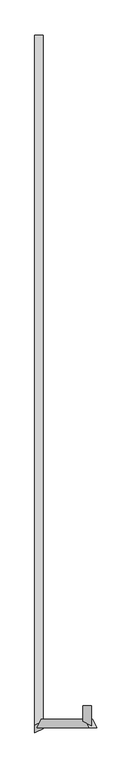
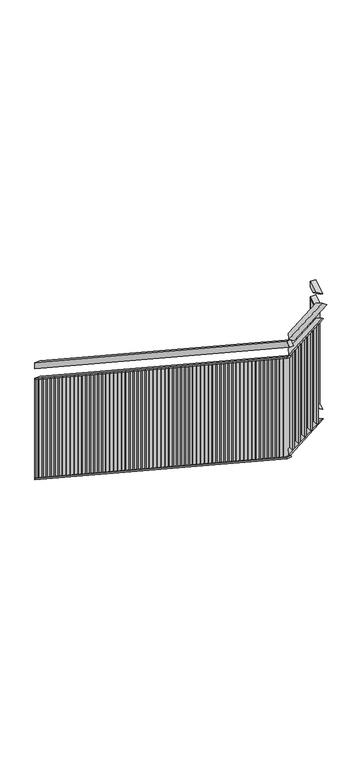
"""IFC4 building model written with IfcOpenShell, lengths in millimetres: railing geometry, Vertikale Stäbe mit Handlauf."""

from ifc_helpers import new_model, si_unit, frame, origin, place, context, project, spatial, polyline, outline, extrude, faceted_brep, source, transform, mapped, element, save


def railing_ba4ef4f0(model_context):
    return source(origin(), model_context, "Body", "SolidModel", [
        faceted_brep([(2004.6, 4490.0, 2171.875), (2004.6, 4490.0, 2124.0007056), (1964.6, 4490.0, 2124.0007056), (1964.6, 4490.0, 2171.875), (2004.6, 1290.5681425, 4275.8938279), (1964.6, 1271.1318575, 4288.675569), (1964.6, 1236.1714395, 4263.792037), (2004.6, 1255.6077246, 4251.0102959)], [[[0, 1, 2, 3]], [[4, 5, 6, 7]], [[1, 0, 4, 7]], [[2, 1, 7, 6]], [[3, 2, 6, 5]], [[0, 3, 5, 4]]]),
        faceted_brep([(1994.3181425, 1300.85, 4323.7645035), (2029.2785605, 1300.85, 4300.5020427), (2009.8422754, 1260.85, 4284.9643148), (1974.8818575, 1260.85, 4308.2267756), (2200.187197, 1300.85, 4488.3400558), (2220.612803, 1260.85, 4504.6686652), (2255.0045843, 1260.85, 4480.9516257), (2234.5789784, 1300.85, 4464.6230163)], [[[0, 1, 2, 3]], [[4, 5, 6, 7]], [[1, 0, 4, 7]], [[2, 1, 7, 6]], [[3, 2, 6, 5]], [[0, 3, 5, 4]]]),
        faceted_brep([(2190.4, 1291.062803, 4580.9651734), (2190.4, 1325.4545843, 4554.8150518), (2230.4, 1305.0289784, 4542.7613144), (2230.4, 1270.637197, 4568.911436), (2190.4, 1361.9329238, 4622.7876696), (2230.4, 1361.9329238, 4622.7876696), (2230.4, 1361.9329238, 4576.3419689), (2190.4, 1361.9329238, 4576.3419689)], [[[0, 1, 2, 3]], [[4, 5, 6, 7]], [[1, 0, 4, 7]], [[2, 1, 7, 6]], [[3, 2, 6, 5]], [[0, 3, 5, 4]]]),
        faceted_brep([(2004.6, 4490.0, 2051.875), (2004.6, 4490.0, 2039.9064264), (1964.6, 4490.0, 2039.9064264), (1964.6, 4490.0, 2051.875), (2004.6, 1290.5681425, 4155.8938279), (1964.6, 1271.1318575, 4168.675569), (1964.6, 1262.391753, 4162.454686), (2004.6, 1281.828038, 4149.6729449)], [[[0, 1, 2, 3]], [[4, 5, 6, 7]], [[1, 0, 4, 7]], [[2, 1, 7, 6]], [[3, 2, 6, 5]], [[0, 3, 5, 4]]]),
        faceted_brep([(1994.3181425, 1300.85, 4203.7645035), (2003.058247, 1300.85, 4197.9488883), (1983.621962, 1260.85, 4182.4111604), (1974.8818575, 1260.85, 4188.2267756), (2200.187197, 1300.85, 4368.3400558), (2220.612803, 1260.85, 4384.6686652), (2229.2107483, 1260.85, 4378.7394053), (2208.7851424, 1300.85, 4362.4107959)], [[[0, 1, 2, 3]], [[4, 5, 6, 7]], [[1, 0, 4, 7]], [[2, 1, 7, 6]], [[3, 2, 6, 5]], [[0, 3, 5, 4]]]),
        faceted_brep([(2190.4, 1291.062803, 4460.9651734), (2190.4, 1299.6607483, 4454.427643), (2230.4, 1279.2351424, 4442.3739056), (2230.4, 1270.637197, 4448.911436), (2190.4, 1361.9329238, 4502.7876696), (2230.4, 1361.9329238, 4502.7876696), (2230.4, 1361.9329238, 4491.1762444), (2190.4, 1361.9329238, 4491.1762444)], [[[0, 1, 2, 3]], [[4, 5, 6, 7]], [[1, 0, 4, 7]], [[2, 1, 7, 6]], [[3, 2, 6, 5]], [[0, 3, 5, 4]]]),
        faceted_brep([(2004.6, 4490.0, 1271.875), (2004.6, 4490.0, 1259.9064264), (1964.6, 4490.0, 1259.9064264), (1964.6, 4490.0, 1271.875), (2004.6, 1290.5681425, 3375.8938279), (1964.6, 1271.1318575, 3388.675569), (1964.6, 1262.391753, 3382.454686), (2004.6, 1281.828038, 3369.6729449)], [[[0, 1, 2, 3]], [[4, 5, 6, 7]], [[1, 0, 4, 7]], [[2, 1, 7, 6]], [[3, 2, 6, 5]], [[0, 3, 5, 4]]]),
        faceted_brep([(1994.3181425, 1300.85, 3423.7645035), (2003.058247, 1300.85, 3417.9488883), (1983.621962, 1260.85, 3402.4111604), (1974.8818575, 1260.85, 3408.2267756), (2200.187197, 1300.85, 3588.3400558), (2220.612803, 1260.85, 3604.6686652), (2229.2107483, 1260.85, 3598.7394053), (2208.7851424, 1300.85, 3582.4107959)], [[[0, 1, 2, 3]], [[4, 5, 6, 7]], [[1, 0, 4, 7]], [[2, 1, 7, 6]], [[3, 2, 6, 5]], [[0, 3, 5, 4]]]),
        faceted_brep([(2190.4, 1291.062803, 3680.9651734), (2190.4, 1299.6607483, 3674.427643), (2230.4, 1279.2351424, 3662.3739056), (2230.4, 1270.637197, 3668.911436), (2190.4, 1361.9329238, 3722.7876696), (2230.4, 1361.9329238, 3722.7876696), (2230.4, 1361.9329238, 3711.1762444), (2190.4, 1361.9329238, 3711.1762444)], [[[0, 1, 2, 3]], [[4, 5, 6, 7]], [[1, 0, 4, 7]], [[2, 1, 7, 6]], [[3, 2, 6, 5]], [[0, 3, 5, 4]]]),
        extrude(outline(polyline([(1306.3914619, 4460.0110558), (1316.3914619, 4465.9123434), (1316.3914619, 3695.9123434), (1306.3914619, 3690.0110558), (1306.3914619, 4460.0110558)])), frame((2190.4, 0.0, 0.0), z_axis=(1.0, 0.0, 0.0), x_axis=(0.0, 1.0, 0.0)), (0.0, 0.0, 1.0), 40.0),
        extrude(outline(polyline([(3573.0813953, 2181.1), (3581.0755814, 2191.1), (4351.0755814, 2191.1), (4343.0813953, 2181.1), (3573.0813953, 2181.1)])), frame((0.0, 1260.85, 0.0), z_axis=(0.0, 1.0, 0.0), x_axis=(0.0, 0.0, 1.0)), (0.0, 0.0, 1.0), 40.0),
        extrude(outline(polyline([(3537.6671512, 2136.8), (3545.6613372, 2146.8), (4315.6613372, 2146.8), (4307.6671512, 2136.8), (3537.6671512, 2136.8)])), frame((0.0, 1260.85, 0.0), z_axis=(0.0, 1.0, 0.0), x_axis=(0.0, 0.0, 1.0)), (0.0, 0.0, 1.0), 40.0),
        extrude(outline(polyline([(3502.252907, 2092.5), (3510.247093, 2102.5), (4280.247093, 2102.5), (4272.252907, 2092.5), (3502.252907, 2092.5)])), frame((0.0, 1260.85, 0.0), z_axis=(0.0, 1.0, 0.0), x_axis=(0.0, 0.0, 1.0)), (0.0, 0.0, 1.0), 40.0),
        extrude(outline(polyline([(3466.8386628, 2048.2), (3474.8328488, 2058.2), (4244.8328488, 2058.2), (4236.8386628, 2048.2), (3466.8386628, 2048.2)])), frame((0.0, 1260.85, 0.0), z_axis=(0.0, 1.0, 0.0), x_axis=(0.0, 0.0, 1.0)), (0.0, 0.0, 1.0), 40.0),
        extrude(outline(polyline([(3431.4244186, 2003.9), (3439.4186047, 2013.9), (4209.4186047, 2013.9), (4201.4244186, 2003.9), (3431.4244186, 2003.9)])), frame((0.0, 1260.85, 0.0), z_axis=(0.0, 1.0, 0.0), x_axis=(0.0, 0.0, 1.0)), (0.0, 0.0, 1.0), 40.0),
        extrude(outline(polyline([(1316.3054687, 3358.9683794), (1306.3054687, 3365.5446059), (1306.3054687, 4135.5446059), (1316.3054687, 4128.9683794), (1316.3054687, 3358.9683794)])), frame((1964.6, 0.0, 0.0), z_axis=(1.0, 0.0, 0.0), x_axis=(0.0, 1.0, 0.0)), (0.0, 0.0, 1.0), 40.0),
        extrude(outline(polyline([(1366.7609375, 3325.7877208), (1356.7609375, 3332.3639472), (1356.7609375, 4102.3639472), (1366.7609375, 4095.7877208), (1366.7609375, 3325.7877208)])), frame((1964.6, 0.0, 0.0), z_axis=(1.0, 0.0, 0.0), x_axis=(0.0, 1.0, 0.0)), (0.0, 0.0, 1.0), 40.0),
        extrude(outline(polyline([(1417.2164062, 3292.6070622), (1407.2164062, 3299.1832886), (1407.2164062, 4069.1832886), (1417.2164062, 4062.6070622), (1417.2164062, 3292.6070622)])), frame((1964.6, 0.0, 0.0), z_axis=(1.0, 0.0, 0.0), x_axis=(0.0, 1.0, 0.0)), (0.0, 0.0, 1.0), 40.0),
        extrude(outline(polyline([(1467.671875, 3259.4264036), (1457.671875, 3266.00263), (1457.671875, 4036.00263), (1467.671875, 4029.4264036), (1467.671875, 3259.4264036)])), frame((1964.6, 0.0, 0.0), z_axis=(1.0, 0.0, 0.0), x_axis=(0.0, 1.0, 0.0)), (0.0, 0.0, 1.0), 40.0),
        extrude(outline(polyline([(1518.1273437, 3226.245745), (1508.1273437, 3232.8219714), (1508.1273437, 4002.8219714), (1518.1273437, 3996.245745), (1518.1273437, 3226.245745)])), frame((1964.6, 0.0, 0.0), z_axis=(1.0, 0.0, 0.0), x_axis=(0.0, 1.0, 0.0)), (0.0, 0.0, 1.0), 40.0),
        extrude(outline(polyline([(1568.5828125, 3193.0650864), (1558.5828125, 3199.6413128), (1558.5828125, 3969.6413128), (1568.5828125, 3963.0650864), (1568.5828125, 3193.0650864)])), frame((1964.6, 0.0, 0.0), z_axis=(1.0, 0.0, 0.0), x_axis=(0.0, 1.0, 0.0)), (0.0, 0.0, 1.0), 40.0),
        extrude(outline(polyline([(1619.0382812, 3159.8844278), (1609.0382812, 3166.4606542), (1609.0382812, 3936.4606542), (1619.0382812, 3929.8844278), (1619.0382812, 3159.8844278)])), frame((1964.6, 0.0, 0.0), z_axis=(1.0, 0.0, 0.0), x_axis=(0.0, 1.0, 0.0)), (0.0, 0.0, 1.0), 40.0),
        extrude(outline(polyline([(1669.49375, 3126.7037691), (1659.49375, 3133.2799956), (1659.49375, 3903.2799956), (1669.49375, 3896.7037691), (1669.49375, 3126.7037691)])), frame((1964.6, 0.0, 0.0), z_axis=(1.0, 0.0, 0.0), x_axis=(0.0, 1.0, 0.0)), (0.0, 0.0, 1.0), 40.0),
        extrude(outline(polyline([(1719.9492187, 3093.5231105), (1709.9492187, 3100.0993369), (1709.9492187, 3870.0993369), (1719.9492187, 3863.5231105), (1719.9492187, 3093.5231105)])), frame((1964.6, 0.0, 0.0), z_axis=(1.0, 0.0, 0.0), x_axis=(0.0, 1.0, 0.0)), (0.0, 0.0, 1.0), 40.0),
        extrude(outline(polyline([(1770.4046875, 3060.3424519), (1760.4046875, 3066.9186783), (1760.4046875, 3836.9186783), (1770.4046875, 3830.3424519), (1770.4046875, 3060.3424519)])), frame((1964.6, 0.0, 0.0), z_axis=(1.0, 0.0, 0.0), x_axis=(0.0, 1.0, 0.0)), (0.0, 0.0, 1.0), 40.0),
        extrude(outline(polyline([(1820.8601562, 3027.1617933), (1810.8601562, 3033.7380197), (1810.8601562, 3803.7380197), (1820.8601562, 3797.1617933), (1820.8601562, 3027.1617933)])), frame((1964.6, 0.0, 0.0), z_axis=(1.0, 0.0, 0.0), x_axis=(0.0, 1.0, 0.0)), (0.0, 0.0, 1.0), 40.0),
        extrude(outline(polyline([(1871.315625, 2993.9811347), (1861.315625, 3000.5573611), (1861.315625, 3770.5573611), (1871.315625, 3763.9811347), (1871.315625, 2993.9811347)])), frame((1964.6, 0.0, 0.0), z_axis=(1.0, 0.0, 0.0), x_axis=(0.0, 1.0, 0.0)), (0.0, 0.0, 1.0), 40.0),
        extrude(outline(polyline([(1921.7710937, 2960.8004761), (1911.7710937, 2967.3767025), (1911.7710937, 3737.3767025), (1921.7710937, 3730.8004761), (1921.7710937, 2960.8004761)])), frame((1964.6, 0.0, 0.0), z_axis=(1.0, 0.0, 0.0), x_axis=(0.0, 1.0, 0.0)), (0.0, 0.0, 1.0), 40.0),
        extrude(outline(polyline([(1972.2265625, 2927.6198175), (1962.2265625, 2934.1960439), (1962.2265625, 3704.1960439), (1972.2265625, 3697.6198175), (1972.2265625, 2927.6198175)])), frame((1964.6, 0.0, 0.0), z_axis=(1.0, 0.0, 0.0), x_axis=(0.0, 1.0, 0.0)), (0.0, 0.0, 1.0), 40.0),
        extrude(outline(polyline([(2022.6820312, 2894.4391589), (2012.6820312, 2901.0153853), (2012.6820312, 3671.0153853), (2022.6820312, 3664.4391589), (2022.6820312, 2894.4391589)])), frame((1964.6, 0.0, 0.0), z_axis=(1.0, 0.0, 0.0), x_axis=(0.0, 1.0, 0.0)), (0.0, 0.0, 1.0), 40.0),
        extrude(outline(polyline([(2073.1375, 2861.2585002), (2063.1375, 2867.8347267), (2063.1375, 3637.8347267), (2073.1375, 3631.2585002), (2073.1375, 2861.2585002)])), frame((1964.6, 0.0, 0.0), z_axis=(1.0, 0.0, 0.0), x_axis=(0.0, 1.0, 0.0)), (0.0, 0.0, 1.0), 40.0),
        extrude(outline(polyline([(2123.5929687, 2828.0778416), (2113.5929687, 2834.654068), (2113.5929687, 3604.654068), (2123.5929687, 3598.0778416), (2123.5929687, 2828.0778416)])), frame((1964.6, 0.0, 0.0), z_axis=(1.0, 0.0, 0.0), x_axis=(0.0, 1.0, 0.0)), (0.0, 0.0, 1.0), 40.0),
        extrude(outline(polyline([(2174.0484375, 2794.897183), (2164.0484375, 2801.4734094), (2164.0484375, 3571.4734094), (2174.0484375, 3564.897183), (2174.0484375, 2794.897183)])), frame((1964.6, 0.0, 0.0), z_axis=(1.0, 0.0, 0.0), x_axis=(0.0, 1.0, 0.0)), (0.0, 0.0, 1.0), 40.0),
        extrude(outline(polyline([(2224.5039062, 2761.7165244), (2214.5039062, 2768.2927508), (2214.5039062, 3538.2927508), (2224.5039062, 3531.7165244), (2224.5039062, 2761.7165244)])), frame((1964.6, 0.0, 0.0), z_axis=(1.0, 0.0, 0.0), x_axis=(0.0, 1.0, 0.0)), (0.0, 0.0, 1.0), 40.0),
        extrude(outline(polyline([(2274.959375, 2728.5358658), (2264.959375, 2735.1120922), (2264.959375, 3505.1120922), (2274.959375, 3498.5358658), (2274.959375, 2728.5358658)])), frame((1964.6, 0.0, 0.0), z_axis=(1.0, 0.0, 0.0), x_axis=(0.0, 1.0, 0.0)), (0.0, 0.0, 1.0), 40.0),
        extrude(outline(polyline([(2325.4148437, 2695.3552072), (2315.4148437, 2701.9314336), (2315.4148437, 3471.9314336), (2325.4148437, 3465.3552072), (2325.4148437, 2695.3552072)])), frame((1964.6, 0.0, 0.0), z_axis=(1.0, 0.0, 0.0), x_axis=(0.0, 1.0, 0.0)), (0.0, 0.0, 1.0), 40.0),
        extrude(outline(polyline([(2375.8703125, 2662.1745486), (2365.8703125, 2668.750775), (2365.8703125, 3438.750775), (2375.8703125, 3432.1745486), (2375.8703125, 2662.1745486)])), frame((1964.6, 0.0, 0.0), z_axis=(1.0, 0.0, 0.0), x_axis=(0.0, 1.0, 0.0)), (0.0, 0.0, 1.0), 40.0),
        extrude(outline(polyline([(2426.3257812, 2628.9938899), (2416.3257812, 2635.5701164), (2416.3257812, 3405.5701164), (2426.3257812, 3398.9938899), (2426.3257812, 2628.9938899)])), frame((1964.6, 0.0, 0.0), z_axis=(1.0, 0.0, 0.0), x_axis=(0.0, 1.0, 0.0)), (0.0, 0.0, 1.0), 40.0),
        extrude(outline(polyline([(2476.78125, 2595.8132313), (2466.78125, 2602.3894577), (2466.78125, 3372.3894577), (2476.78125, 3365.8132313), (2476.78125, 2595.8132313)])), frame((1964.6, 0.0, 0.0), z_axis=(1.0, 0.0, 0.0), x_axis=(0.0, 1.0, 0.0)), (0.0, 0.0, 1.0), 40.0),
        extrude(outline(polyline([(2527.2367187, 2562.6325727), (2517.2367187, 2569.2087991), (2517.2367187, 3339.2087991), (2527.2367187, 3332.6325727), (2527.2367187, 2562.6325727)])), frame((1964.6, 0.0, 0.0), z_axis=(1.0, 0.0, 0.0), x_axis=(0.0, 1.0, 0.0)), (0.0, 0.0, 1.0), 40.0),
        extrude(outline(polyline([(2577.6921875, 2529.4519141), (2567.6921875, 2536.0281405), (2567.6921875, 3306.0281405), (2577.6921875, 3299.4519141), (2577.6921875, 2529.4519141)])), frame((1964.6, 0.0, 0.0), z_axis=(1.0, 0.0, 0.0), x_axis=(0.0, 1.0, 0.0)), (0.0, 0.0, 1.0), 40.0),
        extrude(outline(polyline([(2628.1476562, 2496.2712555), (2618.1476562, 2502.8474819), (2618.1476562, 3272.8474819), (2628.1476562, 3266.2712555), (2628.1476562, 2496.2712555)])), frame((1964.6, 0.0, 0.0), z_axis=(1.0, 0.0, 0.0), x_axis=(0.0, 1.0, 0.0)), (0.0, 0.0, 1.0), 40.0),
        extrude(outline(polyline([(2678.603125, 2463.0905969), (2668.603125, 2469.6668233), (2668.603125, 3239.6668233), (2678.603125, 3233.0905969), (2678.603125, 2463.0905969)])), frame((1964.6, 0.0, 0.0), z_axis=(1.0, 0.0, 0.0), x_axis=(0.0, 1.0, 0.0)), (0.0, 0.0, 1.0), 40.0),
        extrude(outline(polyline([(2729.0585937, 2429.9099383), (2719.0585937, 2436.4861647), (2719.0585937, 3206.4861647), (2729.0585937, 3199.9099383), (2729.0585937, 2429.9099383)])), frame((1964.6, 0.0, 0.0), z_axis=(1.0, 0.0, 0.0), x_axis=(0.0, 1.0, 0.0)), (0.0, 0.0, 1.0), 40.0),
        extrude(outline(polyline([(2779.5140625, 2396.7292797), (2769.5140625, 2403.3055061), (2769.5140625, 3173.3055061), (2779.5140625, 3166.7292797), (2779.5140625, 2396.7292797)])), frame((1964.6, 0.0, 0.0), z_axis=(1.0, 0.0, 0.0), x_axis=(0.0, 1.0, 0.0)), (0.0, 0.0, 1.0), 40.0),
        extrude(outline(polyline([(2829.9695312, 2363.548621), (2819.9695312, 2370.1248474), (2819.9695312, 3140.1248474), (2829.9695312, 3133.548621), (2829.9695312, 2363.548621)])), frame((1964.6, 0.0, 0.0), z_axis=(1.0, 0.0, 0.0), x_axis=(0.0, 1.0, 0.0)), (0.0, 0.0, 1.0), 40.0),
        extrude(outline(polyline([(2880.425, 2330.3679624), (2870.425, 2336.9441888), (2870.425, 3106.9441888), (2880.425, 3100.3679624), (2880.425, 2330.3679624)])), frame((1964.6, 0.0, 0.0), z_axis=(1.0, 0.0, 0.0), x_axis=(0.0, 1.0, 0.0)), (0.0, 0.0, 1.0), 40.0),
        extrude(outline(polyline([(2930.8804687, 2297.1873038), (2920.8804687, 2303.7635302), (2920.8804687, 3073.7635302), (2930.8804687, 3067.1873038), (2930.8804687, 2297.1873038)])), frame((1964.6, 0.0, 0.0), z_axis=(1.0, 0.0, 0.0), x_axis=(0.0, 1.0, 0.0)), (0.0, 0.0, 1.0), 40.0),
        extrude(outline(polyline([(2981.3359375, 2264.0066452), (2971.3359375, 2270.5828716), (2971.3359375, 3040.5828716), (2981.3359375, 3034.0066452), (2981.3359375, 2264.0066452)])), frame((1964.6, 0.0, 0.0), z_axis=(1.0, 0.0, 0.0), x_axis=(0.0, 1.0, 0.0)), (0.0, 0.0, 1.0), 40.0),
        extrude(outline(polyline([(3031.7914062, 2230.8259866), (3021.7914062, 2237.402213), (3021.7914062, 3007.402213), (3031.7914062, 3000.8259866), (3031.7914062, 2230.8259866)])), frame((1964.6, 0.0, 0.0), z_axis=(1.0, 0.0, 0.0), x_axis=(0.0, 1.0, 0.0)), (0.0, 0.0, 1.0), 40.0),
        extrude(outline(polyline([(3082.246875, 2197.645328), (3072.246875, 2204.2215544), (3072.246875, 2974.2215544), (3082.246875, 2967.645328), (3082.246875, 2197.645328)])), frame((1964.6, 0.0, 0.0), z_axis=(1.0, 0.0, 0.0), x_axis=(0.0, 1.0, 0.0)), (0.0, 0.0, 1.0), 40.0),
        extrude(outline(polyline([(3132.7023437, 2164.4646694), (3122.7023437, 2171.0408958), (3122.7023437, 2941.0408958), (3132.7023437, 2934.4646694), (3132.7023437, 2164.4646694)])), frame((1964.6, 0.0, 0.0), z_axis=(1.0, 0.0, 0.0), x_axis=(0.0, 1.0, 0.0)), (0.0, 0.0, 1.0), 40.0),
        extrude(outline(polyline([(3183.1578125, 2131.2840107), (3173.1578125, 2137.8602372), (3173.1578125, 2907.8602372), (3183.1578125, 2901.2840107), (3183.1578125, 2131.2840107)])), frame((1964.6, 0.0, 0.0), z_axis=(1.0, 0.0, 0.0), x_axis=(0.0, 1.0, 0.0)), (0.0, 0.0, 1.0), 40.0),
        extrude(outline(polyline([(3233.6132812, 2098.1033521), (3223.6132812, 2104.6795785), (3223.6132812, 2874.6795785), (3233.6132812, 2868.1033521), (3233.6132812, 2098.1033521)])), frame((1964.6, 0.0, 0.0), z_axis=(1.0, 0.0, 0.0), x_axis=(0.0, 1.0, 0.0)), (0.0, 0.0, 1.0), 40.0),
        extrude(outline(polyline([(3284.06875, 2064.9226935), (3274.06875, 2071.4989199), (3274.06875, 2841.4989199), (3284.06875, 2834.9226935), (3284.06875, 2064.9226935)])), frame((1964.6, 0.0, 0.0), z_axis=(1.0, 0.0, 0.0), x_axis=(0.0, 1.0, 0.0)), (0.0, 0.0, 1.0), 40.0),
        extrude(outline(polyline([(3334.5242187, 2031.7420349), (3324.5242187, 2038.3182613), (3324.5242187, 2808.3182613), (3334.5242187, 2801.7420349), (3334.5242187, 2031.7420349)])), frame((1964.6, 0.0, 0.0), z_axis=(1.0, 0.0, 0.0), x_axis=(0.0, 1.0, 0.0)), (0.0, 0.0, 1.0), 40.0),
        extrude(outline(polyline([(3384.9796875, 1998.5613763), (3374.9796875, 2005.1376027), (3374.9796875, 2775.1376027), (3384.9796875, 2768.5613763), (3384.9796875, 1998.5613763)])), frame((1964.6, 0.0, 0.0), z_axis=(1.0, 0.0, 0.0), x_axis=(0.0, 1.0, 0.0)), (0.0, 0.0, 1.0), 40.0),
        extrude(outline(polyline([(3435.4351562, 1965.3807177), (3425.4351562, 1971.9569441), (3425.4351562, 2741.9569441), (3435.4351562, 2735.3807177), (3435.4351562, 1965.3807177)])), frame((1964.6, 0.0, 0.0), z_axis=(1.0, 0.0, 0.0), x_axis=(0.0, 1.0, 0.0)), (0.0, 0.0, 1.0), 40.0),
        extrude(outline(polyline([(3485.890625, 1932.2000591), (3475.890625, 1938.7762855), (3475.890625, 2708.7762855), (3485.890625, 2702.2000591), (3485.890625, 1932.2000591)])), frame((1964.6, 0.0, 0.0), z_axis=(1.0, 0.0, 0.0), x_axis=(0.0, 1.0, 0.0)), (0.0, 0.0, 1.0), 40.0),
        extrude(outline(polyline([(3536.3460937, 1899.0194005), (3526.3460937, 1905.5956269), (3526.3460937, 2675.5956269), (3536.3460937, 2669.0194005), (3536.3460937, 1899.0194005)])), frame((1964.6, 0.0, 0.0), z_axis=(1.0, 0.0, 0.0), x_axis=(0.0, 1.0, 0.0)), (0.0, 0.0, 1.0), 40.0),
        extrude(outline(polyline([(3586.8015625, 1865.8387418), (3576.8015625, 1872.4149682), (3576.8015625, 2642.4149682), (3586.8015625, 2635.8387418), (3586.8015625, 1865.8387418)])), frame((1964.6, 0.0, 0.0), z_axis=(1.0, 0.0, 0.0), x_axis=(0.0, 1.0, 0.0)), (0.0, 0.0, 1.0), 40.0),
        extrude(outline(polyline([(3637.2570312, 1832.6580832), (3627.2570312, 1839.2343096), (3627.2570312, 2609.2343096), (3637.2570312, 2602.6580832), (3637.2570312, 1832.6580832)])), frame((1964.6, 0.0, 0.0), z_axis=(1.0, 0.0, 0.0), x_axis=(0.0, 1.0, 0.0)), (0.0, 0.0, 1.0), 40.0),
        extrude(outline(polyline([(3687.7125, 1799.4774246), (3677.7125, 1806.053651), (3677.7125, 2576.053651), (3687.7125, 2569.4774246), (3687.7125, 1799.4774246)])), frame((1964.6, 0.0, 0.0), z_axis=(1.0, 0.0, 0.0), x_axis=(0.0, 1.0, 0.0)), (0.0, 0.0, 1.0), 40.0),
        extrude(outline(polyline([(3738.1679687, 1766.296766), (3728.1679687, 1772.8729924), (3728.1679687, 2542.8729924), (3738.1679687, 2536.296766), (3738.1679687, 1766.296766)])), frame((1964.6, 0.0, 0.0), z_axis=(1.0, 0.0, 0.0), x_axis=(0.0, 1.0, 0.0)), (0.0, 0.0, 1.0), 40.0),
        extrude(outline(polyline([(3788.6234375, 1733.1161074), (3778.6234375, 1739.6923338), (3778.6234375, 2509.6923338), (3788.6234375, 2503.1161074), (3788.6234375, 1733.1161074)])), frame((1964.6, 0.0, 0.0), z_axis=(1.0, 0.0, 0.0), x_axis=(0.0, 1.0, 0.0)), (0.0, 0.0, 1.0), 40.0),
        extrude(outline(polyline([(3839.0789062, 1699.9354488), (3829.0789062, 1706.5116752), (3829.0789062, 2476.5116752), (3839.0789062, 2469.9354488), (3839.0789062, 1699.9354488)])), frame((1964.6, 0.0, 0.0), z_axis=(1.0, 0.0, 0.0), x_axis=(0.0, 1.0, 0.0)), (0.0, 0.0, 1.0), 40.0),
        extrude(outline(polyline([(3889.534375, 1666.7547902), (3879.534375, 1673.3310166), (3879.534375, 2443.3310166), (3889.534375, 2436.7547902), (3889.534375, 1666.7547902)])), frame((1964.6, 0.0, 0.0), z_axis=(1.0, 0.0, 0.0), x_axis=(0.0, 1.0, 0.0)), (0.0, 0.0, 1.0), 40.0),
        extrude(outline(polyline([(3939.9898437, 1633.5741315), (3929.9898437, 1640.150358), (3929.9898437, 2410.150358), (3939.9898437, 2403.5741315), (3939.9898437, 1633.5741315)])), frame((1964.6, 0.0, 0.0), z_axis=(1.0, 0.0, 0.0), x_axis=(0.0, 1.0, 0.0)), (0.0, 0.0, 1.0), 40.0),
        extrude(outline(polyline([(3990.4453125, 1600.3934729), (3980.4453125, 1606.9696993), (3980.4453125, 2376.9696993), (3990.4453125, 2370.3934729), (3990.4453125, 1600.3934729)])), frame((1964.6, 0.0, 0.0), z_axis=(1.0, 0.0, 0.0), x_axis=(0.0, 1.0, 0.0)), (0.0, 0.0, 1.0), 40.0),
        extrude(outline(polyline([(4040.9007812, 1567.2128143), (4030.9007812, 1573.7890407), (4030.9007812, 2343.7890407), (4040.9007812, 2337.2128143), (4040.9007812, 1567.2128143)])), frame((1964.6, 0.0, 0.0), z_axis=(1.0, 0.0, 0.0), x_axis=(0.0, 1.0, 0.0)), (0.0, 0.0, 1.0), 40.0),
        extrude(outline(polyline([(4091.35625, 1534.0321557), (4081.35625, 1540.6083821), (4081.35625, 2310.6083821), (4091.35625, 2304.0321557), (4091.35625, 1534.0321557)])), frame((1964.6, 0.0, 0.0), z_axis=(1.0, 0.0, 0.0), x_axis=(0.0, 1.0, 0.0)), (0.0, 0.0, 1.0), 40.0),
        extrude(outline(polyline([(4141.8117187, 1500.8514971), (4131.8117187, 1507.4277235), (4131.8117187, 2277.4277235), (4141.8117187, 2270.8514971), (4141.8117187, 1500.8514971)])), frame((1964.6, 0.0, 0.0), z_axis=(1.0, 0.0, 0.0), x_axis=(0.0, 1.0, 0.0)), (0.0, 0.0, 1.0), 40.0),
        extrude(outline(polyline([(4192.2671875, 1467.6708385), (4182.2671875, 1474.2470649), (4182.2671875, 2244.2470649), (4192.2671875, 2237.6708385), (4192.2671875, 1467.6708385)])), frame((1964.6, 0.0, 0.0), z_axis=(1.0, 0.0, 0.0), x_axis=(0.0, 1.0, 0.0)), (0.0, 0.0, 1.0), 40.0),
        extrude(outline(polyline([(4242.7226562, 1434.4901799), (4232.7226562, 1441.0664063), (4232.7226562, 2211.0664063), (4242.7226562, 2204.4901799), (4242.7226562, 1434.4901799)])), frame((1964.6, 0.0, 0.0), z_axis=(1.0, 0.0, 0.0), x_axis=(0.0, 1.0, 0.0)), (0.0, 0.0, 1.0), 40.0),
        extrude(outline(polyline([(4293.178125, 1401.3095212), (4283.178125, 1407.8857477), (4283.178125, 2177.8857477), (4293.178125, 2171.3095212), (4293.178125, 1401.3095212)])), frame((1964.6, 0.0, 0.0), z_axis=(1.0, 0.0, 0.0), x_axis=(0.0, 1.0, 0.0)), (0.0, 0.0, 1.0), 40.0),
        extrude(outline(polyline([(4343.6335937, 1368.1288626), (4333.6335937, 1374.705089), (4333.6335937, 2144.705089), (4343.6335937, 2138.1288626), (4343.6335937, 1368.1288626)])), frame((1964.6, 0.0, 0.0), z_axis=(1.0, 0.0, 0.0), x_axis=(0.0, 1.0, 0.0)), (0.0, 0.0, 1.0), 40.0),
        extrude(outline(polyline([(4394.0890625, 1334.948204), (4384.0890625, 1341.5244304), (4384.0890625, 2111.5244304), (4394.0890625, 2104.948204), (4394.0890625, 1334.948204)])), frame((1964.6, 0.0, 0.0), z_axis=(1.0, 0.0, 0.0), x_axis=(0.0, 1.0, 0.0)), (0.0, 0.0, 1.0), 40.0),
        extrude(outline(polyline([(4444.5445312, 1301.7675454), (4434.5445312, 1308.3437718), (4434.5445312, 2078.3437718), (4444.5445312, 2071.7675454), (4444.5445312, 1301.7675454)])), frame((1964.6, 0.0, 0.0), z_axis=(1.0, 0.0, 0.0), x_axis=(0.0, 1.0, 0.0)), (0.0, 0.0, 1.0), 40.0),
        extrude(outline(polyline([(1351.9329238, 4486.8863821), (1361.9329238, 4492.7876696), (1361.9329238, 3722.7876696), (1351.9329238, 3716.8863821), (1351.9329238, 4486.8863821)])), frame((2190.4, 0.0, 0.0), z_axis=(1.0, 0.0, 0.0), x_axis=(0.0, 1.0, 0.0)), (0.0, 0.0, 1.0), 40.0),
        extrude(outline(polyline([(4490.0, 1271.875), (4480.0, 1278.4512264), (4480.0, 2048.4512264), (4490.0, 2041.875), (4490.0, 1271.875)])), frame((1964.6, 0.0, 0.0), z_axis=(1.0, 0.0, 0.0), x_axis=(0.0, 1.0, 0.0)), (0.0, 0.0, 1.0), 40.0),
    ])


if __name__ == "__main__":
    model = new_model("IFC4")
    model_context = context("Model", 3, world=origin())
    ifc_project = project(units=[si_unit("LENGTHUNIT", "METRE", prefix="MILLI")], contexts=[model_context])
    site = spatial("IfcSite", under=ifc_project)
    building = spatial("IfcBuilding", under=site)
    placement = place(None, origin())
    railing_shape = railing_ba4ef4f0(model_context)
    element("IfcRailing", 1, ObjectType="Vertikale Stäbe mit Handlauf", at=placement, inside=building, context=model_context, shape_type="MappedRepresentation", body=[
        mapped(railing_shape, transform((0.0, 0.0, 0.0), x_axis=(1.0, 0.0, 0.0), y_axis=(0.0, 1.0, 0.0), z_axis=(0.0, 0.0, 1.0))),
    ])
    save(model, "model.ifc")
